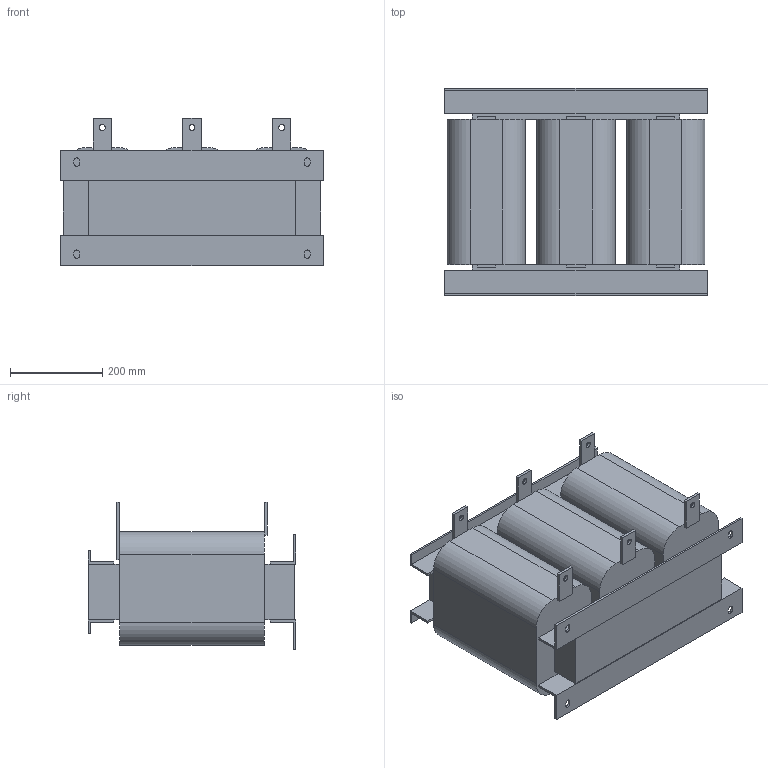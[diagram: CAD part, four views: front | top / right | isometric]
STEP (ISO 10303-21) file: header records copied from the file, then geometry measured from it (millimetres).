
FILE_DESCRIPTION(/* description */ (''),/* implementation_level */ '2;1');
FILE_NAME(/* name */ 'ACO-0600-T6-4.stp',/* time_stamp */ '2025-01-23T16:39:01+04:00',/* author */ ('Александр (огранич)'),/* organization */ (''),/* preprocessor_version */ 'ST-DEVELOPER v19.2',/* originating_system */ 'Autodesk Inventor 2024',/* authorisation */ '');
FILE_SCHEMA (('AUTOMOTIVE_DESIGN { 1 0 10303 214 3 1 1 }'));
Length unit declared in the file: millimetre
Products named in the file (1): ACO-0015-T4-4
Bounding box: 570 x 450 x 320 mm (x, y, z)
Volume: 46080999.6 mm3; surface area: 1438296.8 mm2
Topology: 1 solids, 1 shells, 136 faces, 378 edges, 240 vertices
Faces by surface type: plane 110, cylinder 26
Full cylindrical faces by diameter (mm): 13 x6
Entity records: 4357 total; most frequent: ORIENTED_EDGE 756, CARTESIAN_POINT 755, DIRECTION 704, EDGE_CURVE 378, LINE 326, VECTOR 326, VERTEX_POINT 240, AXIS2_PLACEMENT_3D 189
